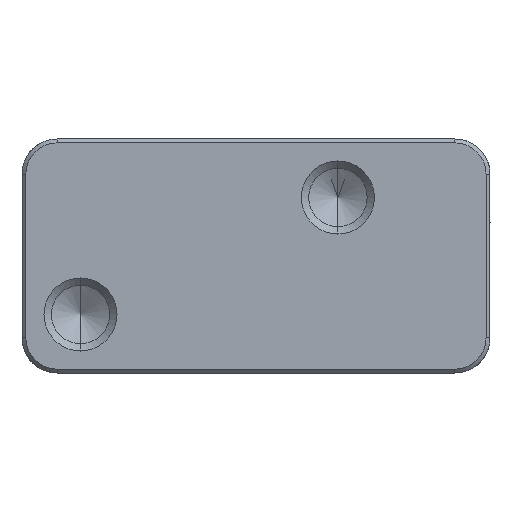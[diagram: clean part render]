
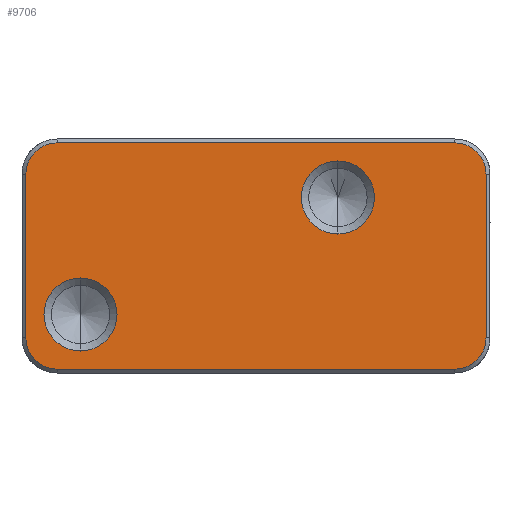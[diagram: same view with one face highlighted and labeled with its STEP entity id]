
A CAD part, front view. The second image highlights one B-rep face of the part: STEP entity #9706.
In plain terms, the highlighted planar face has unit normal (0, -1, 0).
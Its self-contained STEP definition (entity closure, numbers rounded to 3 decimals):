
#163 = FACE_BOUND ( 'NONE', #10466, .T. ) ;
#274 = VERTEX_POINT ( 'NONE', #12993 ) ;
#276 = ORIENTED_EDGE ( 'NONE', *, *, #7750, .F. ) ;
#321 = CARTESIAN_POINT ( 'NONE',  ( -9.833, 0., -3.503 ) ) ;
#374 = EDGE_CURVE ( 'NONE', #7956, #6255, #1832, .T. ) ;
#429 = DIRECTION ( 'NONE',  ( 0., 1., 0. ) ) ;
#433 = CIRCLE ( 'NONE', #1821, 1.333 ) ;
#871 = DIRECTION ( 'NONE',  ( 0., 1., 0. ) ) ;
#912 = DIRECTION ( 'NONE',  ( 0., -1., 0. ) ) ;
#1027 = DIRECTION ( 'NONE',  ( 0., 0., -1. ) ) ;
#1325 = CARTESIAN_POINT ( 'NONE',  ( -10., 0., -5.003 ) ) ;
#1328 = DIRECTION ( 'NONE',  ( 0., -1., 0. ) ) ;
#1361 = DIRECTION ( 'NONE',  ( -1., 0., 0. ) ) ;
#1400 = DIRECTION ( 'NONE',  ( 0., -1., 0. ) ) ;
#1633 = EDGE_CURVE ( 'NONE', #7092, #2098, #7000, .T. ) ;
#1821 = AXIS2_PLACEMENT_3D ( 'NONE', #3573, #429, #10264 ) ;
#1832 = CIRCLE ( 'NONE', #13711, 1.562 ) ;
#1862 = CARTESIAN_POINT ( 'NONE',  ( 9.833, 0., 3.498 ) ) ;
#2038 = DIRECTION ( 'NONE',  ( 0., 0., -1. ) ) ;
#2098 = VERTEX_POINT ( 'NONE', #4953 ) ;
#2141 = CIRCLE ( 'NONE', #3289, 1.562 ) ;
#2355 = EDGE_LOOP ( 'NONE', ( #9219, #10666 ) ) ;
#2410 = CARTESIAN_POINT ( 'NONE',  ( 8.5, 0., -3.503 ) ) ;
#2431 = FACE_BOUND ( 'NONE', #2355, .T. ) ;
#3041 = CARTESIAN_POINT ( 'NONE',  ( -9.833, 0., -5.003 ) ) ;
#3062 = AXIS2_PLACEMENT_3D ( 'NONE', #9685, #871, #2038 ) ;
#3289 = AXIS2_PLACEMENT_3D ( 'NONE', #7560, #11870, #9675 ) ;
#3360 = DIRECTION ( 'NONE',  ( 0., 1., 0. ) ) ;
#3371 = DIRECTION ( 'NONE',  ( 0., 0., 1. ) ) ;
#3450 = DIRECTION ( 'NONE',  ( 0., 0., -1. ) ) ;
#3509 = CARTESIAN_POINT ( 'NONE',  ( -7.5, 0., -2.503 ) ) ;
#3573 = CARTESIAN_POINT ( 'NONE',  ( -8.5, 0., -3.503 ) ) ;
#3599 = VERTEX_POINT ( 'NONE', #10117 ) ;
#3671 = EDGE_CURVE ( 'NONE', #274, #5441, #433, .T. ) ;
#3769 = VERTEX_POINT ( 'NONE', #10695 ) ;
#3965 = CARTESIAN_POINT ( 'NONE',  ( 9.833, 0., -3.503 ) ) ;
#3995 = AXIS2_PLACEMENT_3D ( 'NONE', #1325, #1400, #3450 ) ;
#4393 = CARTESIAN_POINT ( 'NONE',  ( 8.5, 0., 3.498 ) ) ;
#4512 = DIRECTION ( 'NONE',  ( 0., 0., 1. ) ) ;
#4763 = ORIENTED_EDGE ( 'NONE', *, *, #12363, .T. ) ;
#4953 = CARTESIAN_POINT ( 'NONE',  ( 8.5, 0., 4.831 ) ) ;
#5193 = CARTESIAN_POINT ( 'NONE',  ( -7.5, 0., -0.94 ) ) ;
#5441 = VERTEX_POINT ( 'NONE', #321 ) ;
#5513 = DIRECTION ( 'NONE',  ( 0., 1., 0. ) ) ;
#5592 = DIRECTION ( 'NONE',  ( 0., 0., 1. ) ) ;
#5678 = CARTESIAN_POINT ( 'NONE',  ( -8.5, 0., 4.831 ) ) ;
#5712 = EDGE_CURVE ( 'NONE', #14187, #3769, #7103, .T. ) ;
#5742 = ORIENTED_EDGE ( 'NONE', *, *, #11448, .T. ) ;
#5765 = VECTOR ( 'NONE', #8427, 1000. ) ;
#5770 = ORIENTED_EDGE ( 'NONE', *, *, #374, .T. ) ;
#5779 = CARTESIAN_POINT ( 'NONE',  ( 9.833, 0., -5.003 ) ) ;
#5861 = CIRCLE ( 'NONE', #3062, 1.562 ) ;
#6255 = VERTEX_POINT ( 'NONE', #6595 ) ;
#6575 = AXIS2_PLACEMENT_3D ( 'NONE', #14323, #912, #5592 ) ;
#6595 = CARTESIAN_POINT ( 'NONE',  ( -7.5, 0., -4.065 ) ) ;
#6596 = DIRECTION ( 'NONE',  ( 0., 0., -1. ) ) ;
#6743 = CARTESIAN_POINT ( 'NONE',  ( -7.5, 0., -2.503 ) ) ;
#6913 = ORIENTED_EDGE ( 'NONE', *, *, #5712, .F. ) ;
#6965 = CARTESIAN_POINT ( 'NONE',  ( 3.5, 0., 0.935 ) ) ;
#7000 = CIRCLE ( 'NONE', #12582, 1.333 ) ;
#7092 = VERTEX_POINT ( 'NONE', #1862 ) ;
#7103 = CIRCLE ( 'NONE', #9414, 1.333 ) ;
#7136 = LINE ( 'NONE', #7988, #9114 ) ;
#7162 = DIRECTION ( 'NONE',  ( -1., 0., 0. ) ) ;
#7195 = EDGE_CURVE ( 'NONE', #6255, #7956, #11987, .T. ) ;
#7560 = CARTESIAN_POINT ( 'NONE',  ( 3.5, 0., 2.497 ) ) ;
#7750 = EDGE_CURVE ( 'NONE', #3769, #274, #13438, .T. ) ;
#7881 = DIRECTION ( 'NONE',  ( 0., 0., 1. ) ) ;
#7956 = VERTEX_POINT ( 'NONE', #5193 ) ;
#7988 = CARTESIAN_POINT ( 'NONE',  ( -10., 0., 4.831 ) ) ;
#8092 = CARTESIAN_POINT ( 'NONE',  ( -10., 0., -4.836 ) ) ;
#8427 = DIRECTION ( 'NONE',  ( 0., 0., -1. ) ) ;
#8502 = EDGE_LOOP ( 'NONE', ( #4763, #8590, #276, #6913, #14405, #11051, #5742, #10760 ) ) ;
#8590 = ORIENTED_EDGE ( 'NONE', *, *, #3671, .F. ) ;
#8726 = AXIS2_PLACEMENT_3D ( 'NONE', #6743, #5513, #6596 ) ;
#8767 = EDGE_CURVE ( 'NONE', #14187, #7092, #9122, .T. ) ;
#8835 = FACE_OUTER_BOUND ( 'NONE', #8502, .T. ) ;
#9114 = VECTOR ( 'NONE', #1361, 1000. ) ;
#9122 = LINE ( 'NONE', #5779, #11222 ) ;
#9219 = ORIENTED_EDGE ( 'NONE', *, *, #11218, .T. ) ;
#9238 = VERTEX_POINT ( 'NONE', #11647 ) ;
#9330 = EDGE_CURVE ( 'NONE', #11353, #3599, #12859, .T. ) ;
#9414 = AXIS2_PLACEMENT_3D ( 'NONE', #2410, #9826, #4512 ) ;
#9675 = DIRECTION ( 'NONE',  ( 0., 0., -1. ) ) ;
#9685 = CARTESIAN_POINT ( 'NONE',  ( 3.5, 0., 2.497 ) ) ;
#9706 = ADVANCED_FACE ( 'NONE', ( #8835, #163, #2431 ), #11385, .T. ) ;
#9826 = DIRECTION ( 'NONE',  ( 0., 1., 0. ) ) ;
#9950 = ORIENTED_EDGE ( 'NONE', *, *, #7195, .T. ) ;
#10117 = CARTESIAN_POINT ( 'NONE',  ( -9.833, 0., 3.498 ) ) ;
#10264 = DIRECTION ( 'NONE',  ( 0., 0., 1. ) ) ;
#10416 = EDGE_CURVE ( 'NONE', #9238, #14038, #5861, .T. ) ;
#10466 = EDGE_LOOP ( 'NONE', ( #9950, #5770 ) ) ;
#10666 = ORIENTED_EDGE ( 'NONE', *, *, #10416, .T. ) ;
#10695 = CARTESIAN_POINT ( 'NONE',  ( 8.5, 0., -4.836 ) ) ;
#10760 = ORIENTED_EDGE ( 'NONE', *, *, #9330, .T. ) ;
#11051 = ORIENTED_EDGE ( 'NONE', *, *, #1633, .T. ) ;
#11218 = EDGE_CURVE ( 'NONE', #14038, #9238, #2141, .T. ) ;
#11222 = VECTOR ( 'NONE', #3371, 1000. ) ;
#11353 = VERTEX_POINT ( 'NONE', #5678 ) ;
#11385 = PLANE ( 'NONE',  #3995 ) ;
#11448 = EDGE_CURVE ( 'NONE', #2098, #11353, #7136, .T. ) ;
#11647 = CARTESIAN_POINT ( 'NONE',  ( 3.5, 0., 4.06 ) ) ;
#11870 = DIRECTION ( 'NONE',  ( 0., 1., 0. ) ) ;
#11987 = CIRCLE ( 'NONE', #8726, 1.562 ) ;
#12363 = EDGE_CURVE ( 'NONE', #3599, #5441, #13095, .T. ) ;
#12582 = AXIS2_PLACEMENT_3D ( 'NONE', #4393, #1328, #7881 ) ;
#12859 = CIRCLE ( 'NONE', #6575, 1.333 ) ;
#12993 = CARTESIAN_POINT ( 'NONE',  ( -8.5, 0., -4.836 ) ) ;
#13095 = LINE ( 'NONE', #3041, #5765 ) ;
#13438 = LINE ( 'NONE', #8092, #14313 ) ;
#13711 = AXIS2_PLACEMENT_3D ( 'NONE', #3509, #3360, #1027 ) ;
#14038 = VERTEX_POINT ( 'NONE', #6965 ) ;
#14187 = VERTEX_POINT ( 'NONE', #3965 ) ;
#14313 = VECTOR ( 'NONE', #7162, 1000. ) ;
#14323 = CARTESIAN_POINT ( 'NONE',  ( -8.5, 0., 3.498 ) ) ;
#14405 = ORIENTED_EDGE ( 'NONE', *, *, #8767, .T. ) ;
